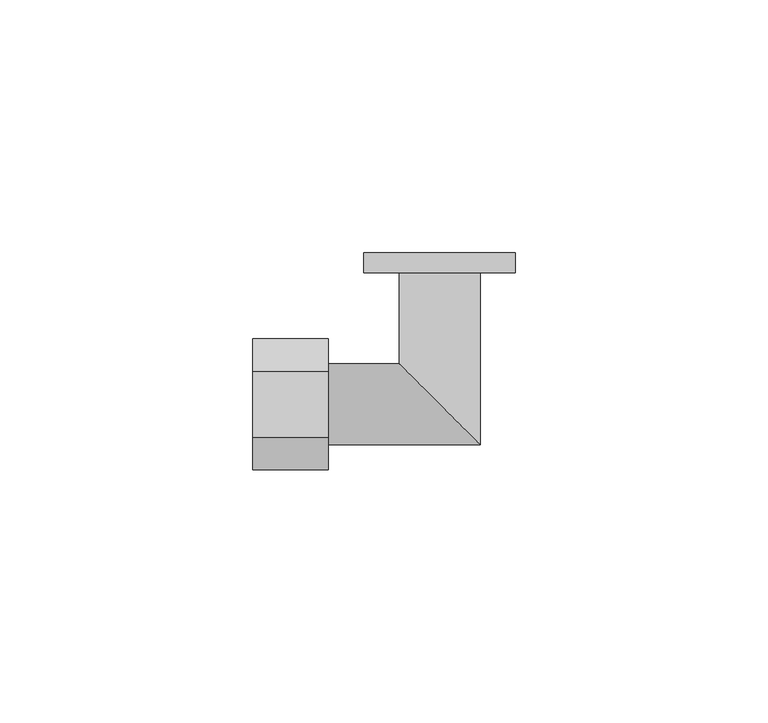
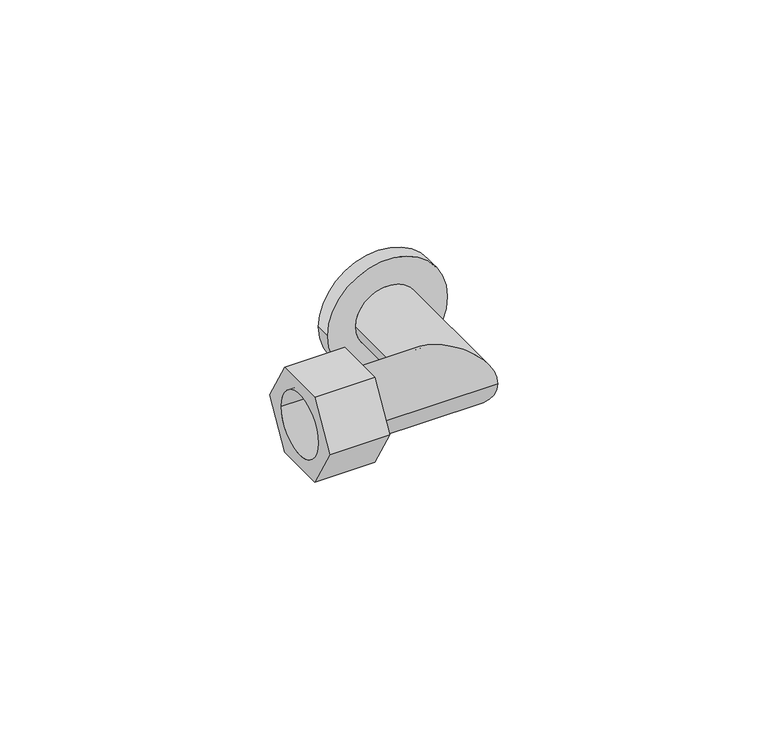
"""IFC4 building model written with IfcOpenShell, lengths in millimetres: pipe fitting geometry, БИР ПЕКС_КМП_Угольник_Резьба_Наружная : Угольник с наружной резьбой_КМП."""

from ifc_helpers import new_model, si_unit, point, frame, origin, origin_2d, place, context, project, spatial, polyline, circle_curve, ellipse_curve, trimmed, segment, composite_curve, outline, extrude, source, transform, mapped, element, save
from ifc_brep_helpers import plane_surface, cylinder_surface, revolved_surface, advanced_brep


def pipe_fitting_1a4a2833(model_context):
    return source(origin(), model_context, "Body", "SolidModel", [
        extrude(outline(polyline([(-6.5, -11.2583302), (-13.0, 0.0), (-6.5, 11.2583302), (6.5, 11.2583302), (13.0, 0.0), (6.5, -11.2583302), (-6.5, -11.2583302)]), holes=[composite_curve([segment(trimmed(circle_curve(origin_2d(), 8.0), [point((-8.0, 0.0))], [point((8.0, 0.0))], True, "CARTESIAN"), True, "CONTINUOUS"), segment(trimmed(circle_curve(origin_2d(), 8.0), [point((8.0, 0.0))], [point((-8.0, 0.0))], True, "CARTESIAN"), True, "CONTINUOUS")], self_intersect=False)]), frame((-37.0, 0.0, 0.0), z_axis=(1.0, 0.0, 0.0), x_axis=(0.0, 1.0, 0.0)), (0.0, 0.0, 1.0), 15.0),
        advanced_brep(
        [(-22.0, -8.0, 0.0), (-22.0, 8.0, 0.0), (-22.0, -7.5, 0.0), (-22.0, 7.5, 0.0), (8.0, -8.0, 0.0), (-8.0, 8.0, 0.0), (-15.0, 30.0, 0.0), (15.0, 30.0, 0.0), (7.5, 30.0, 0.0), (-7.5, 30.0, 0.0), (8.0, 26.0, 0.0), (-8.0, 26.0, 0.0), (-15.0, 26.0, 0.0), (15.0, 26.0, 0.0), (7.5, -7.5, 0.0), (-7.5, 7.5, 0.0), (-7.5, 26.0, 0.0), (7.5, 26.0, 0.0)],
        [
            (0, 1, circle_curve(frame((-22.0, 0.0, 0.0), z_axis=(-1.0, 0.0, 0.0), x_axis=(0.0, 1.0, 0.0)), 8.0)),
            (1, 0, circle_curve(frame((-22.0, 0.0, 0.0), z_axis=(-1.0, 0.0, 0.0), x_axis=(0.0, 1.0, 0.0)), 8.0)),
            (2, 3, circle_curve(frame((-22.0, 0.0, 0.0), z_axis=(1.0, 0.0, 0.0), x_axis=(0.0, 1.0, 0.0)), 7.5)),
            (3, 2, circle_curve(frame((-22.0, 0.0, 0.0), z_axis=(1.0, 0.0, 0.0), x_axis=(0.0, 1.0, 0.0)), 7.5)),
            (0, 4),
            (4, 5, ellipse_curve(frame((0.0, 0.0, 0.0), z_axis=(-0.7071067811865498, -0.7071067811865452, 0.0), x_axis=(-0.7071067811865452, 0.7071067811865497, 0.0)), 11.3137085, 8.0)),
            (5, 1),
            (5, 4, ellipse_curve(frame((0.0, 0.0, 0.0), z_axis=(-0.7071067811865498, -0.7071067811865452, 0.0), x_axis=(-0.7071067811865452, 0.7071067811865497, 0.0)), 11.3137085, 8.0)),
            (6, 7, circle_curve(frame((0.0, 30.0, 0.0), z_axis=(0.0, 1.0, 0.0), x_axis=(1.0, 0.0, 0.0)), 15.0)),
            (7, 6, circle_curve(frame((0.0, 30.0, 0.0), z_axis=(0.0, 1.0, 0.0), x_axis=(1.0, 0.0, 0.0)), 15.0)),
            (8, 9, circle_curve(frame((0.0, 30.0, 0.0), z_axis=(0.0, -1.0, 0.0), x_axis=(-1.0, 0.0, 0.0)), 7.5)),
            (9, 8, circle_curve(frame((0.0, 30.0, 0.0), z_axis=(0.0, -1.0, 0.0), x_axis=(-1.0, 0.0, 0.0)), 7.5)),
            (4, 10),
            (10, 11, circle_curve(frame((0.0, 26.0, 0.0), z_axis=(0.0, -1.0, 0.0), x_axis=(-1.0, 0.0, 0.0)), 8.0)),
            (11, 5),
            (11, 10, circle_curve(frame((0.0, 26.0, 0.0), z_axis=(0.0, -1.0, 0.0), x_axis=(-1.0, 0.0, 0.0)), 8.0)),
            (12, 13, circle_curve(frame((0.0, 26.0, 0.0), z_axis=(0.0, -1.0, 0.0), x_axis=(1.0, 0.0, 0.0)), 15.0)),
            (13, 12, circle_curve(frame((0.0, 26.0, 0.0), z_axis=(0.0, -1.0, 0.0), x_axis=(1.0, 0.0, 0.0)), 15.0)),
            (12, 6),
            (7, 13),
            (2, 14),
            (14, 15, ellipse_curve(frame((0.0, 0.0, 0.0), z_axis=(0.7071067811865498, 0.7071067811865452, 0.0), x_axis=(0.7071067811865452, -0.7071067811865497, 0.0)), 10.6066017, 7.5)),
            (15, 3),
            (15, 14, ellipse_curve(frame((0.0, 0.0, 0.0), z_axis=(0.7071067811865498, 0.7071067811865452, 0.0), x_axis=(0.7071067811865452, -0.7071067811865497, 0.0)), 10.6066017, 7.5)),
            (9, 16),
            (16, 15),
            (14, 17),
            (17, 8),
        ],
        [
            plane_surface(frame((-22.0, 0.0, 0.0), z_axis=(-1.0, 0.0, 0.0), x_axis=(0.0, 0.0, 1.0))),
            cylinder_surface(frame((-22.0, 0.0, 0.0), z_axis=(-1.0, 0.0, 0.0), x_axis=(0.0, 1.0, 0.0)), 8.0),
            plane_surface(frame((0.0, 30.0, 0.0), z_axis=(0.0, 1.0, 0.0), x_axis=(0.0, 0.0, 1.0))),
            cylinder_surface(frame((0.0, 0.0, 0.0), z_axis=(0.0, -1.0, 0.0), x_axis=(-1.0, 0.0, 0.0)), 8.0),
            plane_surface(frame((15.0, 26.0, 0.0), z_axis=(0.0, -1.0, 0.0), x_axis=(0.0, 0.0, 1.0))),
            cylinder_surface(frame((0.0, 30.0, 0.0), z_axis=(0.0, -1.0, 0.0), x_axis=(1.0, 0.0, 0.0)), 15.0),
            revolved_surface(polyline([(7.5, 7.5, 0.0), (-22.0, 7.5, 0.0)]), (-22.0, 0.0, 0.0), (1.0, 0.0, 0.0)),
            revolved_surface(polyline([(-7.5, 30.0, 0.0), (-7.5, -7.5, 0.0)]), (0.0, 0.0, 0.0), (0.0, 1.0, 0.0)),
        ],
        [
            (0, [[1, 2], [3, 4]]),
            (1, [[-1, 5, 6, 7]]),
            (1, [[-2, -7, 8, -5]]),
            (2, [[9, 10], [11, 12]]),
            (3, [[-6, 13, 14, 15]]),
            (3, [[-8, -15, 16, -13]]),
            (4, [[17, 18], [-14, -16]]),
            (5, [[-17, 19, -10, 20]]),
            (5, [[-18, -20, -9, -19]]),
            (6, [[-3, 21, 22, 23]]),
            (6, [[-4, -23, 24, -21]]),
            (7, [[-12, 25, 26, -22, 27, 28]]),
            (7, [[-11, -28, -27, -24, -26, -25]]),
        ],
    ),
    ])


if __name__ == "__main__":
    model = new_model("IFC4")
    model_context = context("Model", 3, world=origin())
    ifc_project = project(units=[si_unit("LENGTHUNIT", "METRE", prefix="MILLI")], contexts=[model_context])
    site = spatial("IfcSite", under=ifc_project)
    building = spatial("IfcBuilding", under=site)
    placement = place(None, origin())
    pipe_fitting_shape = pipe_fitting_1a4a2833(model_context)
    element("IfcPipeFitting", 1, ObjectType="БИР ПЕКС_КМП_Угольник_Резьба_Наружная : Угольник с наружной резьбой_КМП", at=placement, inside=building, context=model_context, shape_type="MappedRepresentation", body=[
        mapped(pipe_fitting_shape, transform((0.0, 0.0, 0.0), x_axis=(1.0, 0.0, 0.0), y_axis=(0.0, 1.0, 0.0), z_axis=(0.0, 0.0, 1.0))),
    ])
    save(model, "model.ifc")
